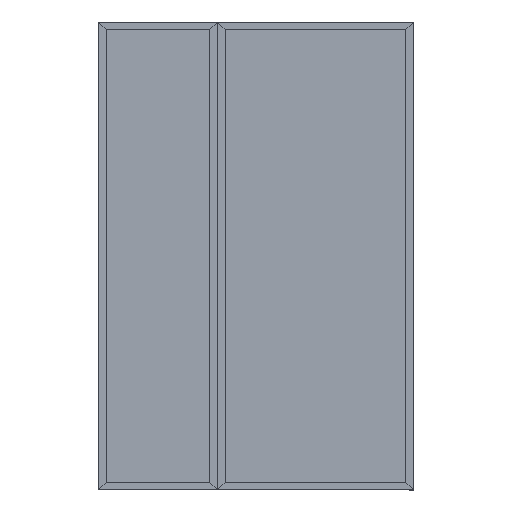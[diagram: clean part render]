
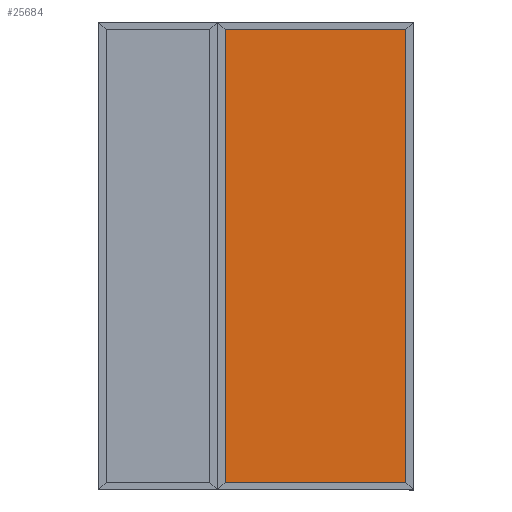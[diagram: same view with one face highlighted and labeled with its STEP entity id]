
A CAD part, top view. The second image highlights one B-rep face of the part: STEP entity #25684.
In plain terms, the highlighted planar face has unit normal (0, 0, 1).
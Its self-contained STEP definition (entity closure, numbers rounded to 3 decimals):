
#650 = CARTESIAN_POINT ( 'NONE',  ( -465.07, 1162.2, -13.25 ) ) ;
#796 = DIRECTION ( 'NONE',  ( -1., 0., 0. ) ) ;
#3934 = EDGE_CURVE ( 'NONE', #27463, #34338, #24807, .T. ) ;
#4152 = ORIENTED_EDGE ( 'NONE', *, *, #28730, .T. ) ;
#9418 = LINE ( 'NONE', #27135, #22220 ) ;
#10166 = AXIS2_PLACEMENT_3D ( 'NONE', #25082, #32000, #24871 ) ;
#10989 = VERTEX_POINT ( 'NONE', #43903 ) ;
#11735 = VECTOR ( 'NONE', #43314, 1000. ) ;
#12348 = ORIENTED_EDGE ( 'NONE', *, *, #3934, .F. ) ;
#12757 = VERTEX_POINT ( 'NONE', #19274 ) ;
#13835 = CARTESIAN_POINT ( 'NONE',  ( -465.07, -1162.2, -13.25 ) ) ;
#14175 = CARTESIAN_POINT ( 'NONE',  ( 0., 1162.2, -13.25 ) ) ;
#14379 = VECTOR ( 'NONE', #45323, 1000. ) ;
#16952 = EDGE_CURVE ( 'NONE', #10989, #12757, #9418, .T. ) ;
#16977 = CARTESIAN_POINT ( 'NONE',  ( -465.07, 0., -13.25 ) ) ;
#17963 = PLANE ( 'NONE',  #10166 ) ;
#19274 = CARTESIAN_POINT ( 'NONE',  ( 465.07, 1162.2, -13.25 ) ) ;
#19992 = DIRECTION ( 'NONE',  ( 0., 1., 0. ) ) ;
#21654 = CARTESIAN_POINT ( 'NONE',  ( 0., -1162.2, -13.25 ) ) ;
#22220 = VECTOR ( 'NONE', #19992, 1000. ) ;
#23719 = EDGE_LOOP ( 'NONE', ( #12348, #33994, #32229, #4152 ) ) ;
#24807 = LINE ( 'NONE', #16977, #14379 ) ;
#24871 = DIRECTION ( 'NONE',  ( -1., 0., 0. ) ) ;
#25082 = CARTESIAN_POINT ( 'NONE',  ( 0., 0., -13.25 ) ) ;
#25684 = ADVANCED_FACE ( 'NONE', ( #42153 ), #17963, .F. ) ;
#27135 = CARTESIAN_POINT ( 'NONE',  ( 465.07, 0., -13.25 ) ) ;
#27463 = VERTEX_POINT ( 'NONE', #13835 ) ;
#28730 = EDGE_CURVE ( 'NONE', #12757, #34338, #32348, .T. ) ;
#32000 = DIRECTION ( 'NONE',  ( 0., 0., -1. ) ) ;
#32229 = ORIENTED_EDGE ( 'NONE', *, *, #16952, .T. ) ;
#32348 = LINE ( 'NONE', #14175, #37002 ) ;
#33994 = ORIENTED_EDGE ( 'NONE', *, *, #38061, .F. ) ;
#34338 = VERTEX_POINT ( 'NONE', #650 ) ;
#35709 = LINE ( 'NONE', #21654, #11735 ) ;
#37002 = VECTOR ( 'NONE', #796, 1000. ) ;
#38061 = EDGE_CURVE ( 'NONE', #10989, #27463, #35709, .T. ) ;
#42153 = FACE_OUTER_BOUND ( 'NONE', #23719, .T. ) ;
#43314 = DIRECTION ( 'NONE',  ( -1., 0., 0. ) ) ;
#43903 = CARTESIAN_POINT ( 'NONE',  ( 465.07, -1162.2, -13.25 ) ) ;
#45323 = DIRECTION ( 'NONE',  ( 0., 1., 0. ) ) ;
